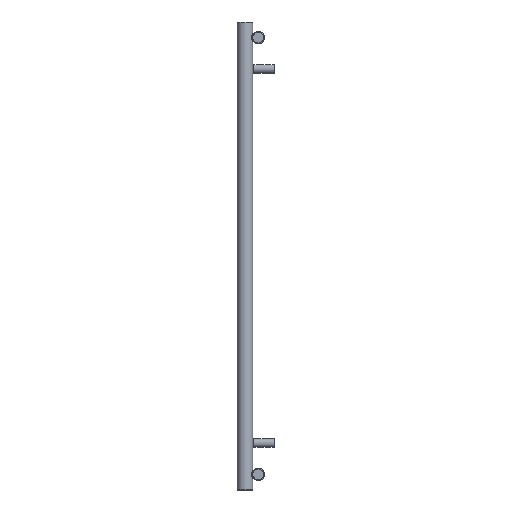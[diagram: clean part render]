
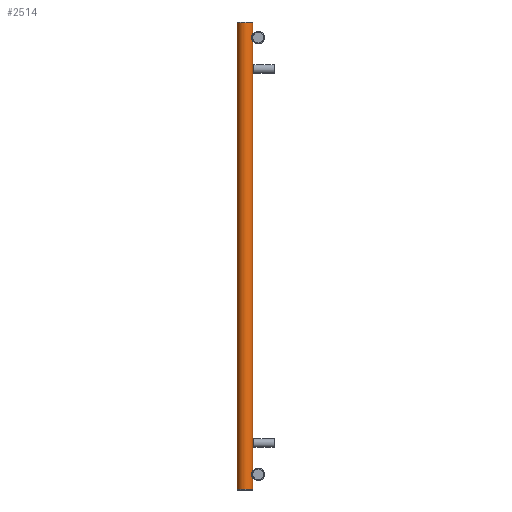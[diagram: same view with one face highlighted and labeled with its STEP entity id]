
A CAD part, left-side view. The second image highlights one B-rep face of the part: STEP entity #2514.
In plain terms, the highlighted cylindrical face has radius 20 mm (diameter 40 mm), a full revolution.
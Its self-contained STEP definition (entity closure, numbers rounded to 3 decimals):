
#184=FACE_BOUND('',#600,.T.);
#185=FACE_BOUND('',#601,.T.);
#231=LINE('',#4267,#310);
#310=VECTOR('',#3106,20.);
#389=CYLINDRICAL_SURFACE('',#2728,20.);
#426=FACE_OUTER_BOUND('',#599,.T.);
#599=EDGE_LOOP('',(#1745,#1746,#1747,#1748,#1749));
#600=EDGE_LOOP('',(#1750));
#601=EDGE_LOOP('',(#1751));
#808=B_SPLINE_CURVE_WITH_KNOTS('',3,(#4067,#4068,#4069,#4070,#4071,#4072,
#4073,#4074,#4075,#4076,#4077,#4078,#4079,#4080,#4081,#4082,#4083,#4084,
#4085,#4086),.UNSPECIFIED.,.T.,.F.,(4,1,1,1,1,1,1,1,1,1,1,1,1,1,1,1,1,4),
(-5.132,-4.765,-4.399,-3.91,
-3.788,-3.666,-3.421,-3.177,
-2.933,-2.444,-2.199,-1.955,
-1.711,-1.466,-1.1,-0.733,
-0.367,0.),.UNSPECIFIED.);
#817=B_SPLINE_CURVE_WITH_KNOTS('',3,(#4271,#4272,#4273,#4274,#4275,#4276,
#4277,#4278,#4279,#4280,#4281,#4282,#4283,#4284,#4285,#4286,#4287,#4288,
#4289,#4290),.UNSPECIFIED.,.T.,.F.,(4,1,1,1,1,1,1,1,1,1,1,1,1,1,1,1,1,4),
(-5.132,-4.765,-4.399,-3.91,
-3.788,-3.666,-3.421,-3.177,
-2.933,-2.444,-2.199,-1.955,-1.711,
-1.466,-1.1,-0.733,-0.367,
0.),.UNSPECIFIED.);
#883=CIRCLE('',#2729,20.);
#884=CIRCLE('',#2730,20.);
#885=CIRCLE('',#2731,20.);
#1085=VERTEX_POINT('',#4044);
#1097=VERTEX_POINT('',#4263);
#1098=VERTEX_POINT('',#4264);
#1099=VERTEX_POINT('',#4266);
#1100=VERTEX_POINT('',#4270);
#1347=EDGE_CURVE('',#1085,#1085,#808,.T.);
#1359=EDGE_CURVE('',#1097,#1098,#883,.T.);
#1360=EDGE_CURVE('',#1097,#1099,#231,.T.);
#1361=EDGE_CURVE('',#1099,#1099,#884,.T.);
#1362=EDGE_CURVE('',#1098,#1097,#885,.T.);
#1363=EDGE_CURVE('',#1100,#1100,#817,.T.);
#1745=ORIENTED_EDGE('',*,*,#1359,.F.);
#1746=ORIENTED_EDGE('',*,*,#1360,.T.);
#1747=ORIENTED_EDGE('',*,*,#1361,.F.);
#1748=ORIENTED_EDGE('',*,*,#1360,.F.);
#1749=ORIENTED_EDGE('',*,*,#1362,.F.);
#1750=ORIENTED_EDGE('',*,*,#1363,.F.);
#1751=ORIENTED_EDGE('',*,*,#1347,.F.);
#2514=ADVANCED_FACE('',(#426,#184,#185),#389,.T.);
#2728=AXIS2_PLACEMENT_3D('',#4262,#3102,#3103);
#2729=AXIS2_PLACEMENT_3D('',#4265,#3104,#3105);
#2730=AXIS2_PLACEMENT_3D('',#4268,#3107,#3108);
#2731=AXIS2_PLACEMENT_3D('',#4269,#3109,#3110);
#3102=DIRECTION('center_axis',(0.,0.,1.));
#3103=DIRECTION('ref_axis',(-1.,0.,0.));
#3104=DIRECTION('center_axis',(0.,0.,1.));
#3105=DIRECTION('ref_axis',(-1.,0.,0.));
#3106=DIRECTION('',(0.,0.,-1.));
#3107=DIRECTION('center_axis',(0.,0.,-1.));
#3108=DIRECTION('ref_axis',(-1.,0.,0.));
#3109=DIRECTION('center_axis',(0.,0.,1.));
#3110=DIRECTION('ref_axis',(-1.,0.,0.));
#4044=CARTESIAN_POINT('',(-440.,-20.,50.1));
#4067=CARTESIAN_POINT('Ctrl Pts',(-440.,-20.,50.1));
#4068=CARTESIAN_POINT('Ctrl Pts',(-441.611,-20.,50.1));
#4069=CARTESIAN_POINT('Ctrl Pts',(-444.831,-19.609,49.581));
#4070=CARTESIAN_POINT('Ctrl Pts',(-449.316,-17.862,46.748));
#4071=CARTESIAN_POINT('Ctrl Pts',(-451.001,-16.692,42.521));
#4072=CARTESIAN_POINT('Ctrl Pts',(-450.992,-16.71,39.163));
#4073=CARTESIAN_POINT('Ctrl Pts',(-450.668,-16.917,36.969));
#4074=CARTESIAN_POINT('Ctrl Pts',(-449.648,-17.555,34.431));
#4075=CARTESIAN_POINT('Ctrl Pts',(-447.535,-18.589,32.082));
#4076=CARTESIAN_POINT('Ctrl Pts',(-443.836,-19.82,30.088));
#4077=CARTESIAN_POINT('Ctrl Pts',(-439.419,-20.202,29.641));
#4078=CARTESIAN_POINT('Ctrl Pts',(-435.239,-19.503,30.58));
#4079=CARTESIAN_POINT('Ctrl Pts',(-432.466,-18.591,32.084));
#4080=CARTESIAN_POINT('Ctrl Pts',(-430.351,-17.553,34.428));
#4081=CARTESIAN_POINT('Ctrl Pts',(-428.927,-16.66,37.981));
#4082=CARTESIAN_POINT('Ctrl Pts',(-428.921,-16.659,42.599));
#4083=CARTESIAN_POINT('Ctrl Pts',(-431.137,-18.052,47.027));
#4084=CARTESIAN_POINT('Ctrl Pts',(-435.165,-19.6,49.585));
#4085=CARTESIAN_POINT('Ctrl Pts',(-438.389,-20.,50.1));
#4086=CARTESIAN_POINT('Ctrl Pts',(-440.,-20.,50.1));
#4262=CARTESIAN_POINT('Origin',(-440.,0.,0.));
#4263=CARTESIAN_POINT('',(-420.,0.,1198.));
#4264=CARTESIAN_POINT('',(-460.,0.,1198.));
#4265=CARTESIAN_POINT('Origin',(-440.,0.,1198.));
#4266=CARTESIAN_POINT('',(-420.,0.,2.));
#4267=CARTESIAN_POINT('',(-420.,0.,0.));
#4268=CARTESIAN_POINT('Origin',(-440.,0.,2.));
#4269=CARTESIAN_POINT('Origin',(-440.,0.,1198.));
#4270=CARTESIAN_POINT('',(-440.,-20.,1170.1));
#4271=CARTESIAN_POINT('Ctrl Pts',(-440.,-20.,1170.1));
#4272=CARTESIAN_POINT('Ctrl Pts',(-441.611,-20.,1170.1));
#4273=CARTESIAN_POINT('Ctrl Pts',(-444.831,-19.609,1169.581));
#4274=CARTESIAN_POINT('Ctrl Pts',(-449.316,-17.862,1166.749));
#4275=CARTESIAN_POINT('Ctrl Pts',(-451.002,-16.691,1162.521));
#4276=CARTESIAN_POINT('Ctrl Pts',(-450.992,-16.709,1159.164));
#4277=CARTESIAN_POINT('Ctrl Pts',(-450.668,-16.917,1156.97));
#4278=CARTESIAN_POINT('Ctrl Pts',(-449.649,-17.554,1154.431));
#4279=CARTESIAN_POINT('Ctrl Pts',(-447.536,-18.588,1152.083));
#4280=CARTESIAN_POINT('Ctrl Pts',(-443.836,-19.819,1150.088));
#4281=CARTESIAN_POINT('Ctrl Pts',(-439.419,-20.201,1149.641));
#4282=CARTESIAN_POINT('Ctrl Pts',(-435.24,-19.502,1150.581));
#4283=CARTESIAN_POINT('Ctrl Pts',(-432.467,-18.59,1152.084));
#4284=CARTESIAN_POINT('Ctrl Pts',(-430.351,-17.552,1154.428));
#4285=CARTESIAN_POINT('Ctrl Pts',(-428.927,-16.659,1157.981));
#4286=CARTESIAN_POINT('Ctrl Pts',(-428.921,-16.659,1162.599));
#4287=CARTESIAN_POINT('Ctrl Pts',(-431.137,-18.052,1167.028));
#4288=CARTESIAN_POINT('Ctrl Pts',(-435.165,-19.6,1169.585));
#4289=CARTESIAN_POINT('Ctrl Pts',(-438.389,-20.,1170.1));
#4290=CARTESIAN_POINT('Ctrl Pts',(-440.,-20.,1170.1));
